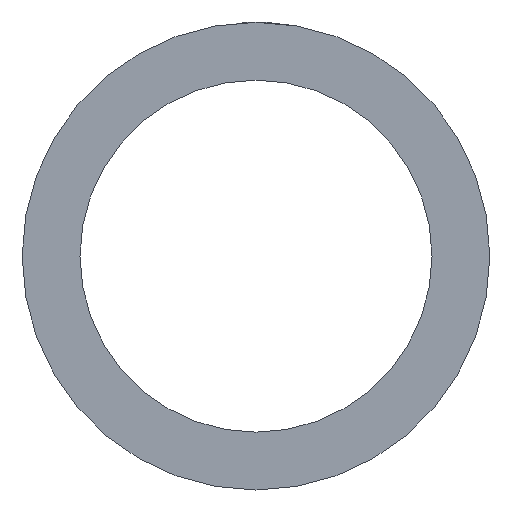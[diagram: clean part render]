
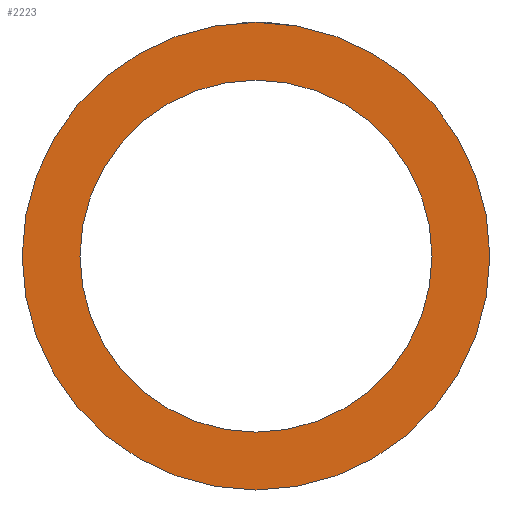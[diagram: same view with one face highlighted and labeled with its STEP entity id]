
A CAD part, left-side view. The second image highlights one B-rep face of the part: STEP entity #2223.
In plain terms, the highlighted planar face has unit normal (-1, 0, 0).
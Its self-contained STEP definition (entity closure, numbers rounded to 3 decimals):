
#15 = CARTESIAN_POINT ( 'NONE',  ( 0., 0., 0. ) ) ;
#33 = DIRECTION ( 'NONE',  ( 0., 0., 1. ) ) ;
#41 = DIRECTION ( 'NONE',  ( -1., 0., 0. ) ) ;
#61 = CARTESIAN_POINT ( 'NONE',  ( 0., 0., 0. ) ) ;
#64 = DIRECTION ( 'NONE',  ( 0., 0., 1. ) ) ;
#76 = DIRECTION ( 'NONE',  ( -1., 0., 0. ) ) ;
#122 = DIRECTION ( 'NONE',  ( 0., 0., 1. ) ) ;
#152 = AXIS2_PLACEMENT_3D ( 'NONE', #15, #2869, #2320 ) ;
#216 = AXIS2_PLACEMENT_3D ( 'NONE', #61, #41, #33 ) ;
#218 = DIRECTION ( 'NONE',  ( -1., 0., 0. ) ) ;
#222 = CARTESIAN_POINT ( 'NONE',  ( 0., 0., 0. ) ) ;
#229 = CARTESIAN_POINT ( 'NONE',  ( 0., 0., 0. ) ) ;
#514 = EDGE_CURVE ( 'NONE', #1792, #1527, #3254, .T. ) ;
#683 = EDGE_CURVE ( 'NONE', #794, #1157, #2916, .T. ) ;
#748 = AXIS2_PLACEMENT_3D ( 'NONE', #2603, #2593, #2588 ) ;
#794 = VERTEX_POINT ( 'NONE', #2828 ) ;
#876 = CIRCLE ( 'NONE', #3156, 342.5 ) ;
#1058 = EDGE_LOOP ( 'NONE', ( #1203, #1227 ) ) ;
#1072 = EDGE_CURVE ( 'NONE', #1157, #794, #2174, .T. ) ;
#1076 = EDGE_CURVE ( 'NONE', #1527, #1792, #876, .T. ) ;
#1092 = EDGE_LOOP ( 'NONE', ( #1170, #1177 ) ) ;
#1157 = VERTEX_POINT ( 'NONE', #2789 ) ;
#1170 = ORIENTED_EDGE ( 'NONE', *, *, #1072, .F. ) ;
#1177 = ORIENTED_EDGE ( 'NONE', *, *, #683, .F. ) ;
#1203 = ORIENTED_EDGE ( 'NONE', *, *, #514, .T. ) ;
#1227 = ORIENTED_EDGE ( 'NONE', *, *, #1076, .T. ) ;
#1364 = CARTESIAN_POINT ( 'NONE',  ( 0., 0., -342.5 ) ) ;
#1527 = VERTEX_POINT ( 'NONE', #1364 ) ;
#1792 = VERTEX_POINT ( 'NONE', #3223 ) ;
#2174 = CIRCLE ( 'NONE', #3188, 257.8 ) ;
#2223 = ADVANCED_FACE ( 'NONE', ( #2476, #3046 ), #2701, .F. ) ;
#2320 = DIRECTION ( 'NONE',  ( 0., 0., 1. ) ) ;
#2476 = FACE_BOUND ( 'NONE', #1092, .T. ) ;
#2588 = DIRECTION ( 'NONE',  ( 0., 0., -1. ) ) ;
#2593 = DIRECTION ( 'NONE',  ( 1., 0., 0. ) ) ;
#2603 = CARTESIAN_POINT ( 'NONE',  ( 0., 257.8, 0. ) ) ;
#2701 = PLANE ( 'NONE',  #748 ) ;
#2789 = CARTESIAN_POINT ( 'NONE',  ( 0., 0., 257.8 ) ) ;
#2828 = CARTESIAN_POINT ( 'NONE',  ( 0., 0., -257.8 ) ) ;
#2869 = DIRECTION ( 'NONE',  ( -1., 0., 0. ) ) ;
#2916 = CIRCLE ( 'NONE', #152, 257.8 ) ;
#3046 = FACE_OUTER_BOUND ( 'NONE', #1058, .T. ) ;
#3156 = AXIS2_PLACEMENT_3D ( 'NONE', #229, #76, #64 ) ;
#3188 = AXIS2_PLACEMENT_3D ( 'NONE', #222, #218, #122 ) ;
#3223 = CARTESIAN_POINT ( 'NONE',  ( 0., 0., 342.5 ) ) ;
#3254 = CIRCLE ( 'NONE', #216, 342.5 ) ;
